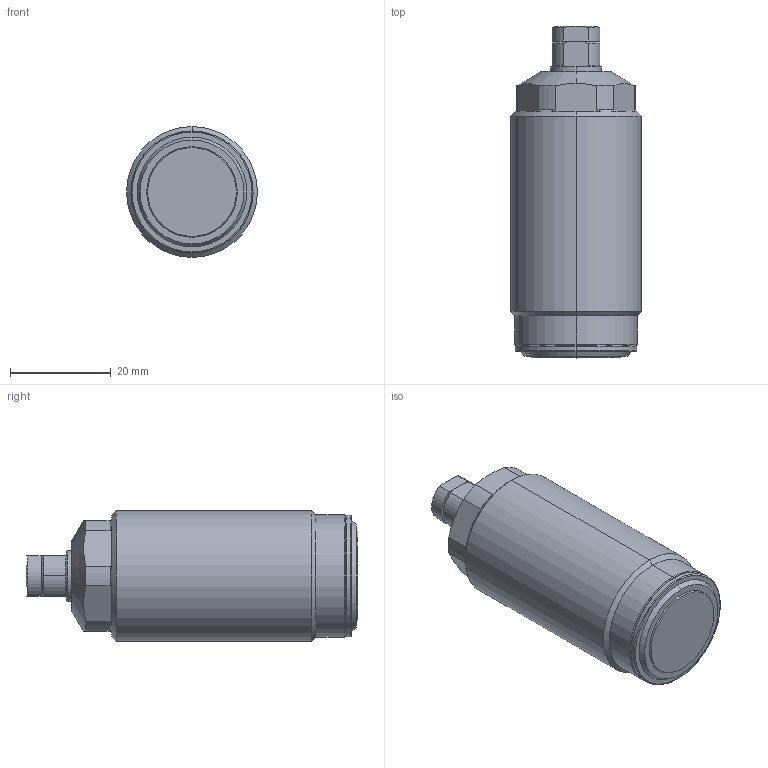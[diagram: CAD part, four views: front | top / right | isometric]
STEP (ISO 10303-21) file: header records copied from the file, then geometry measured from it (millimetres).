
FILE_DESCRIPTION(/* description */ (''),/* implementation_level */ '2;1');
FILE_NAME(/* name */ 'TSC00.stp',/* time_stamp */ '2022-11-16T14:36:03+08:00',/* author */ (''),/* organization */ (''),/* preprocessor_version */ 'ST-DEVELOPER v16.7',/* originating_system */ 'SIEMENS PLM Software NX 12.0',/* authorisation */ '');
FILE_SCHEMA (('AP203_CONFIGURATION_CONTROLLED_3D_DESIGN_OF_MECHANICAL_PARTS_AND_ASSEMBLIES_MIM_LF { 1 0 10303 403 2 1 2}'));
Length unit declared in the file: millimetre
Products named in the file (4): TSC00-02; TSC00-01; TSC00-03; CSY00_step
Assembly tree (3 placements, depth 2):
  CSY00_step
    TSC00-03
    TSC00-01
    TSC00-02
Bounding box: 26 x 66 x 26 mm (x, y, z)
Volume: 28559.6 mm3; surface area: 6632.6 mm2
Topology: 3 solids, 4 shells, 115 faces, 262 edges, 161 vertices
Faces by surface type: cylinder 37, plane 31, cone 23, torus 22, sphere 2
Entity records: 3739 total; most frequent: DIRECTION 626, CARTESIAN_POINT 626, ORIENTED_EDGE 524, AXIS2_PLACEMENT_3D 273, EDGE_CURVE 262, VERTEX_POINT 161, CIRCLE 154, EDGE_LOOP 125
